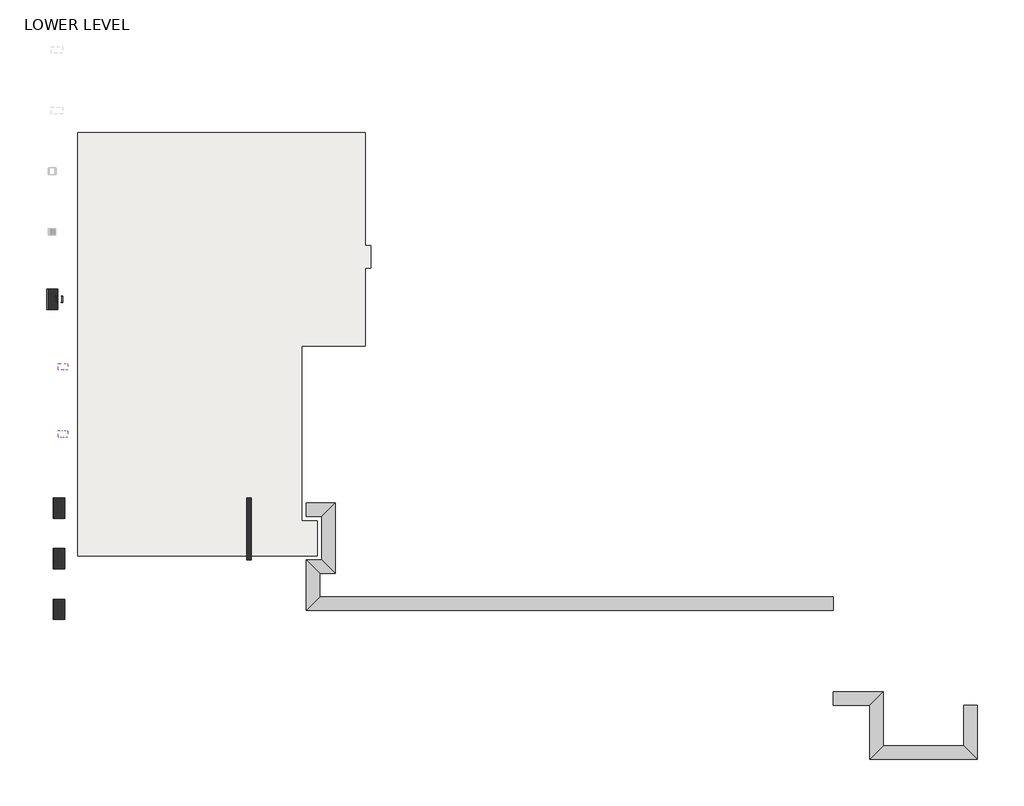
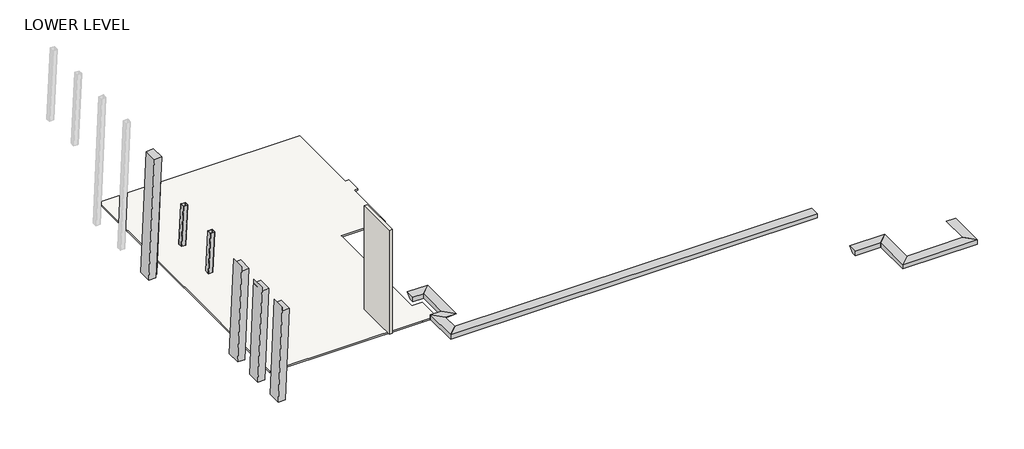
# One storey, part 1 of 2: 9 proxies, 7 columns, 1 slab, 1 wall.
"""IFC4 building model written with IfcOpenShell, lengths in millimetres."""

import ifcopenshell
import ifcopenshell.guid

model = None  # the IFC model being written
_history = None  # IfcOwnerHistory: only IFC2X3 demands one
_inside = {}  # id of a spatial element -> (the spatial element, [elements in it])
_under = {}  # id of a project, library or spatial element -> (it, [spatial elements below it])
_declared = {}  # id of a project -> (the project, [libraries it declares])
_typed = {}  # id of a type object -> (the type object, [elements of that type])
_made_of = {}  # id of a material, layer set ... -> (it, [elements and type objects made of it])


def new_model(schema):
    """Start an empty IFC model of exactly this schema.

    Asked for "IFC4X3", IfcOpenShell would pick the latest addendum, in which some entities
    have other attributes; the version numbers below select the first issue.
    IFC2X3 requires an IfcOwnerHistory on every rooted entity: one is made here for all.
    """
    global model, _history
    if schema == "IFC4X3":
        model = ifcopenshell.file(schema_version=(4, 3, 0, 0))
    else:
        model = ifcopenshell.file(schema=schema)
    _inside.clear()
    _under.clear()
    _declared.clear()
    _typed.clear()
    _made_of.clear()
    _history = None
    if model.schema == "IFC2X3":
        org = make("IfcOrganization", Name="unknown")
        user = make(
            "IfcPersonAndOrganization",
            ThePerson=make("IfcPerson", FamilyName="unknown"),
            TheOrganization=org,
        )
        app = make(
            "IfcApplication",
            ApplicationDeveloper=org,
            Version="unknown",
            ApplicationFullName="unknown",
            ApplicationIdentifier="unknown",
        )
        _history = make(
            "IfcOwnerHistory",
            OwningUser=user,
            OwningApplication=app,
            ChangeAction="ADDED",
            CreationDate=0,
        )
    return model


def make(cls, **values):
    """One entity of the class cls with the attributes given. An attribute that is None is left unset."""
    return model.create_entity(
        cls, **{name: value for name, value in values.items() if value is not None}
    )


def rooted(cls, **values):
    """An entity with a GlobalId (a new one), such as an element, a storey or a relation."""
    return make(cls, GlobalId=ifcopenshell.guid.new(), OwnerHistory=_history, **values)


def si_unit(unit_type, name, prefix=None):
    """IfcSIUnit, for example si_unit("LENGTHUNIT", "METRE", prefix="MILLI")."""
    return make("IfcSIUnit", UnitType=unit_type, Prefix=prefix, Name=name)


def assignment(units):
    """IfcUnitAssignment: the units of a project."""
    return None if units is None else make("IfcUnitAssignment", Units=units)


def point(xyz):
    """IfcCartesianPoint."""
    return None if xyz is None else make("IfcCartesianPoint", Coordinates=xyz)


def direction(xyz):
    """IfcDirection."""
    return None if xyz is None else make("IfcDirection", DirectionRatios=xyz)


def frame(location, z_axis=None, x_axis=None):
    """IfcAxis2Placement3D, a coordinate frame: its origin and axes. An axis left out is left unset."""
    return make(
        "IfcAxis2Placement3D",
        Location=point(location),
        Axis=direction(z_axis),
        RefDirection=direction(x_axis),
    )


def origin():
    """The frame at (0, 0, 0) with its axes left unset."""
    return frame((0.0, 0.0, 0.0))


def place(relative_to, where):
    """IfcLocalPlacement: puts the frame where relative to a parent placement (None: the world)."""
    return make(
        "IfcLocalPlacement", PlacementRelTo=relative_to, RelativePlacement=where
    )


def context(
    kind, dimensions, precision=None, world=None, true_north=None, identifier=None
):
    """IfcGeometricRepresentationContext, for example the 3D "Model" context."""
    return make(
        "IfcGeometricRepresentationContext",
        ContextIdentifier=identifier,
        ContextType=kind,
        CoordinateSpaceDimension=dimensions,
        Precision=precision,
        WorldCoordinateSystem=world,
        TrueNorth=true_north,
    )


def project(units=None, contexts=None):
    """IfcProject with its units and contexts."""
    return rooted(
        "IfcProject",
        Name="project",
        RepresentationContexts=contexts,
        UnitsInContext=assignment(units),
    )


def spatial(cls, under=None, at=None, **own):
    """A site, building, storey or space (cls), placed at a placement, below another one or the project."""
    s = rooted(cls, ObjectPlacement=at, **own)
    if under is not None:
        _under.setdefault(under.id(), (under, []))[1].append(s)
    return s


def polyline(points):
    """IfcPolyline through the points."""
    return make("IfcPolyline", Points=[point(p) for p in points])


def circle_curve(where, radius):
    """IfcCircle in the frame where."""
    return make("IfcCircle", Position=where, Radius=radius)


def ellipse_curve(where, semi_axis1, semi_axis2):
    """IfcEllipse in the frame where."""
    return make(
        "IfcEllipse", Position=where, SemiAxis1=semi_axis1, SemiAxis2=semi_axis2
    )


def outline(outer, holes=None, kind="AREA"):
    """IfcArbitraryClosedProfileDef: a profile drawn as a closed curve; with holes, ...WithVoids."""
    if holes is None:
        return make("IfcArbitraryClosedProfileDef", ProfileType=kind, OuterCurve=outer)
    return make(
        "IfcArbitraryProfileDefWithVoids",
        ProfileType=kind,
        OuterCurve=outer,
        InnerCurves=holes,
    )


def extrude(swept, where, along, depth):
    """IfcExtrudedAreaSolid: the profile swept, set in the frame where, extruded along a direction by depth."""
    return make(
        "IfcExtrudedAreaSolid",
        SweptArea=swept,
        Position=where,
        ExtrudedDirection=direction(along),
        Depth=depth,
    )


def faces_of(points, faces, orient=None, outer=None):
    """IfcFace entities. A face is a list of loops; a loop is a list of indices into points, from 0.

    orient and outer hold one flag for each loop. By default every Orientation is true, the
    first loop of a face is its IfcFaceOuterBound and the others are IfcFaceBound.
    """
    made = []
    for i, loops in enumerate(faces):
        bounds = []
        for j, loop in enumerate(loops):
            is_outer = j == 0 if outer is None else outer[i][j]
            bounds.append(
                make(
                    "IfcFaceOuterBound" if is_outer else "IfcFaceBound",
                    Bound=make("IfcPolyLoop", Polygon=[points[k] for k in loop]),
                    Orientation=True if orient is None else orient[i][j],
                )
            )
        made.append(make("IfcFace", Bounds=bounds))
    return made


def faceted_brep(points, faces, orient=None, outer=None, voids=None):
    """IfcFacetedBrep: a solid bounded by flat faces; with voids (closed shells), ...WithVoids."""
    shared = [point(p) for p in points]
    hull = make("IfcClosedShell", CfsFaces=faces_of(shared, faces, orient, outer))
    if voids is None:
        return make("IfcFacetedBrep", Outer=hull)
    return make(
        "IfcFacetedBrepWithVoids",
        Outer=hull,
        Voids=[
            make(cls, CfsFaces=faces_of(shared, fs, o, b)) for cls, fs, o, b in voids
        ],
    )


def shape(context_of_items, identifier, shape_type, items):
    """IfcShapeRepresentation: the items that make up one representation, for example the "Body"."""
    return make(
        "IfcShapeRepresentation",
        ContextOfItems=context_of_items,
        RepresentationIdentifier=identifier,
        RepresentationType=shape_type,
        Items=items,
    )


def made_of(thing, what):
    """Note that an element or type object is made of a material, layer set ...; save() writes the relation."""
    if what is not None:
        _made_of.setdefault(what.id(), (what, []))[1].append(thing)
    return thing


def element(
    cls,
    number,
    at=None,
    inside=None,
    cuts=None,
    type_object=None,
    material=None,
    context=None,
    identifier="Body",
    shape_type=None,
    held_by="IfcProductDefinitionShape",
    body=None,
    shapes=None,
    **own,
):
    """One element of the class cls, such as IfcWall. Its Tag is "e" and its number.

    at: its placement. inside: the storey or other place that contains it. cuts: it is an
    opening in that element (IfcRelVoidsElement). A single representation is given by context,
    identifier, shape_type and body (its items); several are given by shapes. held_by: the class
    of the entity that holds the representations. save() writes the other relations.
    """
    e = rooted(cls, Tag="e%d" % number, ObjectPlacement=at, **own)
    if body is not None:
        shapes = [shape(context, identifier, shape_type, body)]
    if shapes is not None:
        e.Representation = make(held_by, Representations=shapes)
    if inside is not None:
        _inside.setdefault(inside.id(), (inside, []))[1].append(e)
    if cuts is not None:
        rooted(
            "IfcRelVoidsElement", RelatingBuildingElement=cuts, RelatedOpeningElement=e
        )
    if type_object is not None:
        _typed.setdefault(type_object.id(), (type_object, []))[1].append(e)
    return made_of(e, material)


def aggregate(whole, parts):
    """IfcRelAggregates: a whole, such as a stair, and the parts it consists of."""
    return rooted("IfcRelAggregates", RelatingObject=whole, RelatedObjects=parts)


def save(model, path):
    """Write the relations noted so far, then the file.

    IfcRelAggregates (storeys below a building ...), IfcRelContainedInSpatialStructure (elements
    in a storey), IfcRelDefinesByType, IfcRelAssociatesMaterial and IfcRelDeclares: one each for
    every whole, place, type object, material and project.
    """
    for whole, parts in _under.values():
        aggregate(whole, parts)
    for where, things in _inside.values():
        rooted(
            "IfcRelContainedInSpatialStructure",
            RelatedElements=things,
            RelatingStructure=where,
        )
    for kind, things in _typed.values():
        rooted("IfcRelDefinesByType", RelatedObjects=things, RelatingType=kind)
    for what, things in _made_of.values():
        rooted("IfcRelAssociatesMaterial", RelatedObjects=things, RelatingMaterial=what)
    for by, libraries in _declared.values():
        rooted("IfcRelDeclares", RelatingContext=by, RelatedDefinitions=libraries)
    model.write(path)


def plane_surface(at):
    """IfcPlane: the flat surface through the origin of the frame at, square to its z axis."""
    return make("IfcPlane", Position=at)


def cylinder_surface(at, radius):
    """IfcCylindricalSurface: all points at the distance radius from the z axis of the frame at."""
    return make("IfcCylindricalSurface", Position=at, Radius=radius)


def revolved_surface(curve, axis_point, axis_direction):
    """IfcSurfaceOfRevolution: the curve turned about the line through axis_point along axis_direction."""
    return make(
        "IfcSurfaceOfRevolution",
        SweptCurve=make("IfcArbitraryOpenProfileDef", ProfileType="CURVE", Curve=curve),
        AxisPosition=make("IfcAxis1Placement", Location=point(axis_point), Axis=direction(axis_direction)),
    )


def advanced_brep(points, edges, surfaces, faces):
    """IfcAdvancedBrep: a solid bounded by faces that lie on surfaces and meet in shared edges.

    An edge is (start, end): straight between two places in points (the first is 0);
    or (start, end, curve); or (start, end, curve, False) where it runs against its curve.
    A face is (place in surfaces, loops), or (place, loops, False) where it looks against
    its surface's normal. A loop lists edges by number (the first is 1), with a minus sign
    where the edge is run from its end to its start. The first loop is the outer one.
    """
    corners = [point(p) for p in points]
    vertices = [make("IfcVertexPoint", VertexGeometry=c) for c in corners]
    made = []
    for start, end, *more in edges:
        made.append(
            make(
                "IfcEdgeCurve",
                EdgeStart=vertices[start],
                EdgeEnd=vertices[end],
                EdgeGeometry=more[0] if more else make("IfcPolyline", Points=[corners[start], corners[end]]),
                SameSense=more[1] if len(more) > 1 else True,
            )
        )
    hull = []
    for where, loops, *sense in faces:
        bounds = []
        for j, loop in enumerate(loops):
            ring = [make("IfcOrientedEdge", EdgeElement=made[abs(k) - 1], Orientation=k > 0) for k in loop]
            bounds.append(
                make(
                    "IfcFaceOuterBound" if j == 0 else "IfcFaceBound",
                    Bound=make("IfcEdgeLoop", EdgeList=ring),
                    Orientation=True,
                )
            )
        hull.append(make("IfcAdvancedFace", Bounds=bounds, FaceSurface=surfaces[where], SameSense=sense[0] if sense else True))
    return make("IfcAdvancedBrep", Outer=make("IfcClosedShell", CfsFaces=hull))


model = new_model("IFC4")

# Units and contexts
model_context = context("Model", 3, world=origin())
ifc_project = project(units=[si_unit("LENGTHUNIT", "METRE", prefix="MILLI")], contexts=[model_context])

# Site, building, storey
site = spatial("IfcSite", under=ifc_project)
building = spatial("IfcBuilding", under=site)
storey = spatial("IfcBuildingStorey", under=building, Name="LOWER LEVEL", Elevation=29972.0)

# Proxies
placement = place(None, origin())
element("IfcBuildingElementProxy", 1, Name="Thickened 24\" x 12\"", ObjectType="Thickened 24\" x 12\"", at=placement, inside=storey, context=model_context, shape_type="Brep", body=[
    faceted_brep([(-10225.7204607, -7095.1304995, 30048.2), (-10225.7204607, -7095.1304995, 30353.0), (-9616.1204607, -6485.5304995, 30353.0), (-9920.9204607, -6790.3304995, 30048.2), (13583.6045393, -7095.1304995, 30048.2), (13583.6045393, -6790.3304995, 30048.2), (13583.6045393, -6485.5304995, 30353.0), (13583.6045393, -7095.1304995, 30353.0)], [[[0, 1, 2, 3]], [[4, 5, 6, 7]], [[1, 0, 4, 7]], [[2, 1, 7, 6]], [[3, 2, 6, 5]], [[0, 3, 5, 4]]]),
])
element("IfcBuildingElementProxy", 2, Name="Thickened 24\" x 12\"", ObjectType="Thickened 24\" x 12\"", at=placement, inside=storey, context=model_context, shape_type="Brep", body=[
    faceted_brep([(-10225.7204607, -4821.8304995, 30048.2), (-10225.7204607, -4821.8304995, 30353.0), (-9616.1204607, -5431.4304995, 30353.0), (-9920.9204607, -5126.6304995, 30048.2), (-10225.7204607, -7095.1304995, 30048.2), (-9920.9204607, -6790.3304995, 30048.2), (-9616.1204607, -6485.5304995, 30353.0), (-10225.7204607, -7095.1304995, 30353.0)], [[[0, 1, 2, 3]], [[4, 5, 6, 7]], [[1, 0, 4, 7]], [[2, 1, 7, 6]], [[3, 2, 6, 5]], [[0, 3, 5, 4]]]),
])
element("IfcBuildingElementProxy", 3, Name="Thickened 24\" x 12\"", ObjectType="Thickened 24\" x 12\"", at=placement, inside=storey, context=model_context, shape_type="Brep", body=[
    faceted_brep([(13583.6045393, -11381.3804995, 30048.2), (13583.6045393, -11381.3804995, 30353.0), (13583.6045393, -10771.7804995, 30353.0), (13583.6045393, -11076.5804995, 30048.2), (15240.9545393, -11381.3804995, 30048.2), (15545.7545393, -11076.5804995, 30048.2), (15850.5545393, -10771.7804995, 30353.0), (15240.9545393, -11381.3804995, 30353.0)], [[[0, 1, 2, 3]], [[4, 5, 6, 7]], [[1, 0, 4, 7]], [[2, 1, 7, 6]], [[3, 2, 6, 5]], [[0, 3, 5, 4]]]),
])
element("IfcBuildingElementProxy", 4, Name="Thickened 24\" x 12\"", ObjectType="Thickened 24\" x 12\"", at=placement, inside=storey, context=model_context, shape_type="Brep", body=[
    faceted_brep([(-10225.7204607, -2837.4554995, 30048.2), (-10225.7204607, -2837.4554995, 30353.0), (-10225.7204607, -2227.8554995, 30353.0), (-10225.7204607, -2532.6554995, 30048.2), (-9524.0454607, -2837.4554995, 30048.2), (-9219.2454607, -2532.6554995, 30048.2), (-8914.4454607, -2227.8554995, 30353.0), (-9524.0454607, -2837.4554995, 30353.0)], [[[0, 1, 2, 3]], [[4, 5, 6, 7]], [[1, 0, 4, 7]], [[2, 1, 7, 6]], [[3, 2, 6, 5]], [[0, 3, 5, 4]]]),
])
element("IfcBuildingElementProxy", 5, Name="Thickened 24\" x 12\"", ObjectType="Thickened 24\" x 12\"", at=placement, inside=storey, context=model_context, shape_type="Brep", body=[
    faceted_brep([(-9524.0454607, -2837.4554995, 30048.2), (-9524.0454607, -2837.4554995, 30353.0), (-8914.4454607, -2227.8554995, 30353.0), (-9219.2454607, -2532.6554995, 30048.2), (-9524.0454607, -4821.8304995, 30048.2), (-9219.2454607, -5126.6304995, 30048.2), (-8914.4454607, -5431.4304995, 30353.0), (-9524.0454607, -4821.8304995, 30353.0)], [[[0, 1, 2, 3]], [[4, 5, 6, 7]], [[1, 0, 4, 7]], [[2, 1, 7, 6]], [[3, 2, 6, 5]], [[0, 3, 5, 4]]]),
])
element("IfcBuildingElementProxy", 6, Name="Thickened 24\" x 12\"", ObjectType="Thickened 24\" x 12\"", at=placement, inside=storey, context=model_context, shape_type="Brep", body=[
    faceted_brep([(-9524.0454607, -4821.8304995, 30048.2), (-9524.0454607, -4821.8304995, 30353.0), (-8914.4454607, -5431.4304995, 30353.0), (-9219.2454607, -5126.6304995, 30048.2), (-10225.7204607, -4821.8304995, 30048.2), (-9920.9204607, -5126.6304995, 30048.2), (-9616.1204607, -5431.4304995, 30353.0), (-10225.7204607, -4821.8304995, 30353.0)], [[[0, 1, 2, 3]], [[4, 5, 6, 7]], [[1, 0, 4, 7]], [[2, 1, 7, 6]], [[3, 2, 6, 5]], [[0, 3, 5, 4]]]),
])
element("IfcBuildingElementProxy", 7, Name="Thickened 24\" x 12\"", ObjectType="Thickened 24\" x 12\"", at=placement, inside=storey, context=model_context, shape_type="Brep", body=[
    faceted_brep([(15240.9545393, -11381.3804995, 30048.2), (15240.9545393, -11381.3804995, 30353.0), (15850.5545393, -10771.7804995, 30353.0), (15545.7545393, -11076.5804995, 30048.2), (15240.9545393, -13826.1304995, 30048.2), (15545.7545393, -13521.3304995, 30048.2), (15850.5545393, -13216.5304995, 30353.0), (15240.9545393, -13826.1304995, 30353.0)], [[[0, 1, 2, 3]], [[4, 5, 6, 7]], [[1, 0, 4, 7]], [[2, 1, 7, 6]], [[3, 2, 6, 5]], [[0, 3, 5, 4]]]),
])
element("IfcBuildingElementProxy", 8, Name="Thickened 24\" x 12\"", ObjectType="Thickened 24\" x 12\"", at=placement, inside=storey, context=model_context, shape_type="Brep", body=[
    faceted_brep([(15240.9545393, -13826.1304995, 30048.2), (15240.9545393, -13826.1304995, 30353.0), (15850.5545393, -13216.5304995, 30353.0), (15545.7545393, -13521.3304995, 30048.2), (20105.0545393, -13826.1304995, 30048.2), (19800.2545393, -13521.3304995, 30048.2), (19495.4545393, -13216.5304995, 30353.0), (20105.0545393, -13826.1304995, 30353.0)], [[[0, 1, 2, 3]], [[4, 5, 6, 7]], [[1, 0, 4, 7]], [[2, 1, 7, 6]], [[3, 2, 6, 5]], [[0, 3, 5, 4]]]),
])
element("IfcBuildingElementProxy", 9, Name="Thickened 24\" x 12\"", ObjectType="Thickened 24\" x 12\"", at=placement, inside=storey, context=model_context, shape_type="Brep", body=[
    faceted_brep([(20105.0545393, -13826.1304995, 30048.2), (20105.0545393, -13826.1304995, 30353.0), (19495.4545393, -13216.5304995, 30353.0), (19800.2545393, -13521.3304995, 30048.2), (20105.0545393, -11381.3804995, 30048.2), (19800.2545393, -11381.3804995, 30048.2), (19495.4545393, -11381.3804995, 30353.0), (20105.0545393, -11381.3804995, 30353.0)], [[[0, 1, 2, 3]], [[4, 5, 6, 7]], [[1, 0, 4, 7]], [[2, 1, 7, 6]], [[3, 2, 6, 5]], [[0, 3, 5, 4]]]),
])

# Columns
element("IfcColumn", 10, ObjectType="Concrete-Rectangular-Column : A_str", at=placement, inside=storey, context=model_context, shape_type="SweptSolid", body=[
    extrude(outline(polyline([(38153.5165689, -21149.7498015), (38102.0297181, -21610.0591887), (29972.0, -21968.2744496), (29972.0, -21510.233612), (38153.5165689, -21149.7498015)])), frame((0.0, 6519.2695005, 0.0), z_axis=(0.0, 1.0, 0.0), x_axis=(0.0, 0.0, 1.0)), (0.0, 0.0, 1.0), 914.4),
])
element("IfcColumn", 11, ObjectType="Concrete-Rectangular-Column : A_str", at=placement, inside=storey, context=model_context, shape_type="SweptSolid", body=[
    extrude(outline(polyline([(29973.8530358, -21660.8606217), (29973.8530358, -21202.8638747), (36170.6135377, -20943.7483082), (36120.4712951, -21392.0570572), (36402.3024462, -21392.0570572), (29973.8530358, -21660.8606217)])), frame((0.0, -7501.5304995, 0.0), z_axis=(0.0, 1.0, 0.0), x_axis=(0.0, 0.0, 1.0)), (0.0, 0.0, 1.0), 914.4),
])
element("IfcColumn", 12, ObjectType="Concrete-Rectangular-Column : A_str", at=placement, inside=storey, context=model_context, shape_type="SweptSolid", body=[
    extrude(outline(polyline([(29973.8530358, -21660.8606217), (29973.8530358, -21202.8638747), (36170.6135377, -20943.7483082), (36120.4712951, -21392.0570572), (36402.3024462, -21392.0570572), (29973.8530358, -21660.8606217)])), frame((0.0, -2929.5304995, 0.0), z_axis=(0.0, 1.0, 0.0), x_axis=(0.0, 0.0, 1.0)), (0.0, 0.0, 1.0), 914.4),
])
element("IfcColumn", 13, ObjectType="Concrete-Rectangular-Column : A_str", at=placement, inside=storey, context=model_context, shape_type="SweptSolid", body=[
    extrude(outline(polyline([(29973.8530358, -21660.8606217), (29973.8530358, -21202.8638747), (36170.6135377, -20943.7483082), (36120.4712951, -21392.0570572), (36402.3024462, -21392.0570572), (29973.8530358, -21660.8606217)])), frame((0.0, -5215.5304995, 0.0), z_axis=(0.0, 1.0, 0.0), x_axis=(0.0, 0.0, 1.0)), (0.0, 0.0, 1.0), 914.4),
])
element("IfcColumn", 14, ObjectType="HSS-Hollow Structural Section-Column : HSS12X12X1/2", at=placement, inside=storey, context=model_context, shape_type="AdvancedBrep", body=[
    advanced_brep(
    [(-21315.8891626, 7105.2475005, 36435.6858997), (-21315.8891626, 6847.6915005, 36435.6858997), (-21292.1362735, 6824.0695005, 36438.342617), (-21033.15316, 6824.0695005, 36467.3094054), (-21009.4002709, 6847.6915005, 36469.9661227), (-21009.4002709, 7105.2475005, 36469.9661227), (-21033.15316, 7128.8695005, 36467.3094054), (-21292.1362735, 7128.8695005, 36438.342617), (-21292.1362735, 6835.8805005, 36438.342617), (-21304.012718, 6847.6915005, 36437.0142583), (-21304.012718, 7105.2475005, 36437.0142583), (-21292.1362735, 7117.0585005, 36438.342617), (-21033.15316, 7117.0585005, 36467.3094054), (-21021.2767155, 7105.2475005, 36468.637764), (-21021.2767155, 6847.6915005, 36468.637764), (-21033.15316, 6835.8805005, 36467.3094054), (-21584.4793713, 7105.2475005, 29976.5811676), (-21584.4793713, 6847.6915005, 29976.5811676), (-21560.877768, 6835.8805005, 29975.5997375), (-21572.6785697, 6847.6915005, 29976.0904526), (-21303.5441577, 6835.8805005, 29964.8989839), (-21291.743356, 6847.6915005, 29964.4082689), (-21291.743356, 7105.2475005, 29964.4082689), (-21303.5441577, 7117.0585005, 29964.8989839), (-21560.877768, 7117.0585005, 29975.5997375), (-21572.6785697, 7105.2475005, 29976.0904526), (-21560.877768, 7128.8695005, 29975.5997375), (-21303.5441577, 7128.8695005, 29964.8989839), (-21279.9425544, 7105.2475005, 29963.9175539), (-21279.9425544, 6847.6915005, 29963.9175539), (-21303.5441577, 6824.0695005, 29964.8989839), (-21560.877768, 6824.0695005, 29975.5997375)],
    [
        (0, 1),
        (1, 2, ellipse_curve(frame((-21292.1362735, 6847.6915005, 36438.342617), z_axis=(-0.11115505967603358, 0.0, 0.9938030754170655), x_axis=(0.9938030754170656, 0.0, 0.11115505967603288)), 23.9010018, 23.622)),
        (2, 3),
        (3, 4, ellipse_curve(frame((-21033.15316, 6847.6915005, 36467.3094054), z_axis=(-0.11115505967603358, 0.0, 0.9938030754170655), x_axis=(0.9938030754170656, 0.0, 0.11115505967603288)), 23.9010018, 23.622)),
        (4, 5),
        (5, 6, ellipse_curve(frame((-21033.15316, 7105.2475005, 36467.3094054), z_axis=(-0.11115505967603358, 0.0, 0.9938030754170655), x_axis=(0.9938030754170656, 0.0, 0.11115505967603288)), 23.9010018, 23.622)),
        (6, 7),
        (7, 0, ellipse_curve(frame((-21292.1362735, 7105.2475005, 36438.342617), z_axis=(-0.11115505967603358, 0.0, 0.9938030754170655), x_axis=(0.9938030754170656, 0.0, 0.11115505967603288)), 23.9010018, 23.622)),
        (8, 9, ellipse_curve(frame((-21292.1362735, 6847.6915005, 36438.342617), z_axis=(0.11115505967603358, 0.0, -0.9938030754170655), x_axis=(-0.9938030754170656, 0.0, -0.11115505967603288)), 11.9505009, 11.811)),
        (9, 10),
        (10, 11, ellipse_curve(frame((-21292.1362735, 7105.2475005, 36438.342617), z_axis=(0.11115505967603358, 0.0, -0.9938030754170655), x_axis=(-0.9938030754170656, 0.0, -0.11115505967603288)), 11.9505009, 11.811)),
        (11, 12),
        (12, 13, ellipse_curve(frame((-21033.15316, 7105.2475005, 36467.3094054), z_axis=(0.11115505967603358, 0.0, -0.9938030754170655), x_axis=(-0.9938030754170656, 0.0, -0.11115505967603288)), 11.9505009, 11.811)),
        (13, 14),
        (14, 15, ellipse_curve(frame((-21033.15316, 6847.6915005, 36467.3094054), z_axis=(0.11115505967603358, 0.0, -0.9938030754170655), x_axis=(-0.9938030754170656, 0.0, -0.11115505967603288)), 11.9505009, 11.811)),
        (15, 8),
        (0, 16),
        (16, 17),
        (17, 1),
        (8, 18),
        (18, 19, circle_curve(frame((-21560.877768, 6847.6915005, 29975.5997375), z_axis=(-0.041547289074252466, 0.0, -0.9991365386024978), x_axis=(0.0, 1.0, 0.0)), 11.811)),
        (19, 9),
        (15, 20),
        (20, 18),
        (14, 21),
        (21, 20, circle_curve(frame((-21303.5441577, 6847.6915005, 29964.8989839), z_axis=(-0.041547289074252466, 0.0, -0.9991365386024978), x_axis=(0.0, 1.0, 0.0)), 11.811)),
        (13, 22),
        (22, 21),
        (12, 23),
        (23, 22, circle_curve(frame((-21303.5441577, 7105.2475005, 29964.8989839), z_axis=(-0.041547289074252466, 0.0, -0.9991365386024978), x_axis=(0.0, 1.0, 0.0)), 11.811)),
        (11, 24),
        (24, 23),
        (10, 25),
        (25, 24, circle_curve(frame((-21560.877768, 7105.2475005, 29975.5997375), z_axis=(-0.041547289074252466, 0.0, -0.9991365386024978), x_axis=(0.0, 1.0, 0.0)), 11.811)),
        (7, 26),
        (26, 16, circle_curve(frame((-21560.877768, 7105.2475005, 29975.5997375), z_axis=(0.041547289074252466, 0.0, 0.9991365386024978), x_axis=(0.0, 1.0, 0.0)), 23.622)),
        (26, 27),
        (27, 28, circle_curve(frame((-21303.5441577, 7105.2475005, 29964.8989839), z_axis=(-0.041547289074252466, 0.0, -0.9991365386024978), x_axis=(0.0, 1.0, 0.0)), 23.622)),
        (28, 29),
        (29, 30, circle_curve(frame((-21303.5441577, 6847.6915005, 29964.8989839), z_axis=(-0.041547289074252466, 0.0, -0.9991365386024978), x_axis=(0.0, 1.0, 0.0)), 23.622)),
        (30, 31),
        (31, 17, circle_curve(frame((-21560.877768, 6847.6915005, 29975.5997375), z_axis=(-0.041547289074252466, 0.0, -0.9991365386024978), x_axis=(0.0, 1.0, 0.0)), 23.622)),
        (25, 19),
        (31, 2),
        (6, 27),
        (5, 28),
        (4, 29),
        (3, 30),
    ],
    [
        plane_surface(frame((-11485.0467002, -8086.4745246, 37535.2476817), z_axis=(-0.11115505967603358, 0.0, 0.9938030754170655), x_axis=(0.9938030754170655, 0.0, 0.11115505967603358))),
        plane_surface(frame((-21296.7925453, 7105.2475005, 36894.9247206), z_axis=(-0.9991365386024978, 0.0, 0.041547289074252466), x_axis=(-0.041547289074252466, 0.0, -0.9991365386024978))),
        revolved_surface(polyline([(-21560.877768, 6859.5025005, 29975.5997375), (-21292.060630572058, 6859.5025005, 36440.16169067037)]), (-21560.877768, 6847.6915005, 29975.5997375), (-0.041547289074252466, 0.0, -0.9991365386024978)),
        plane_surface(frame((-21015.8573317, 6835.8805005, 36883.242537), z_axis=(0.0, 1.0000000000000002, 0.0), x_axis=(-0.041547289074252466, 0.0, -0.9991365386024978))),
        revolved_surface(polyline([(-21303.5441577, 6859.5025005, 29964.8989839), (-21033.07751715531, 6859.5025005, 36469.128479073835)]), (-21303.5441577, 6847.6915005, 29964.8989839), (-0.041547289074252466, 0.0, -0.9991365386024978)),
        plane_surface(frame((-21004.05653, 7105.2475005, 36882.7518219), z_axis=(-0.9991365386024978, 0.0, 0.041547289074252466), x_axis=(-0.041547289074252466, 0.0, -0.9991365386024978))),
        revolved_surface(polyline([(-21303.5441577, 7117.058500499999, 29964.8989839), (-21033.07751715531, 7117.058500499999, 36469.128479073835)]), (-21303.5441577, 7105.2475005, 29964.8989839), (-0.041547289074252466, 0.0, -0.9991365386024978)),
        plane_surface(frame((-21273.190942, 7117.0585005, 36893.9432905), z_axis=(0.0, -1.0000000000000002, 0.0), x_axis=(-0.041547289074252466, 0.0, -0.9991365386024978))),
        revolved_surface(polyline([(-21560.877768, 7117.058500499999, 29975.5997375), (-21292.060630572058, 7117.058500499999, 36440.16169067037)]), (-21560.877768, 7105.2475005, 29975.5997375), (-0.041547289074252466, 0.0, -0.9991365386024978)),
        cylinder_surface(frame((-21560.877768, 7105.2475005, 29975.5997375), z_axis=(0.041547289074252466, 0.0, 0.9991365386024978), x_axis=(0.0, 1.0, 0.0)), 23.622),
        plane_surface(frame((-21584.4793713, 6847.6915005, 29976.5811676), z_axis=(-0.04154728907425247, 0.0, -0.9991365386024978), x_axis=(0.0, 1.0, 0.0))),
        cylinder_surface(frame((-21560.877768, 6847.6915005, 29975.5997375), z_axis=(0.041547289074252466, 0.0, 0.9991365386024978), x_axis=(0.0, 1.0, 0.0)), 23.622),
        plane_surface(frame((-21284.9917437, 6847.6915005, 36894.4340056), z_axis=(0.9991365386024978, 0.0, -0.041547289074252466), x_axis=(-0.041547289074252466, 0.0, -0.9991365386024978))),
        plane_surface(frame((-21015.8573317, 7128.8695005, 36883.242537), z_axis=(0.0, 1.0000000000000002, 0.0), x_axis=(-0.041547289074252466, 0.0, -0.9991365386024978))),
        cylinder_surface(frame((-21303.5441577, 7105.2475005, 29964.8989839), z_axis=(0.041547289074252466, 0.0, 0.9991365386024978), x_axis=(0.0, 1.0, 0.0)), 23.622),
        plane_surface(frame((-20992.2557284, 6847.6915005, 36882.2611069), z_axis=(0.9991365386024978, 0.0, -0.041547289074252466), x_axis=(-0.041547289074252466, 0.0, -0.9991365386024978))),
        cylinder_surface(frame((-21303.5441577, 6847.6915005, 29964.8989839), z_axis=(0.041547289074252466, 0.0, 0.9991365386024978), x_axis=(0.0, 1.0, 0.0)), 23.622),
        plane_surface(frame((-21273.190942, 6824.0695005, 36893.9432905), z_axis=(0.0, -1.0000000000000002, 0.0), x_axis=(-0.041547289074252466, 0.0, -0.9991365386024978))),
    ],
    [
        (0, [[1, 2, 3, 4, 5, 6, 7, 8], [9, 10, 11, 12, 13, 14, 15, 16]]),
        (1, [[17, 18, 19, -1]]),
        (2, [[20, 21, 22, -9]]),
        (3, [[23, 24, -20, -16]]),
        (4, [[25, 26, -23, -15]]),
        (5, [[27, 28, -25, -14]]),
        (6, [[29, 30, -27, -13]]),
        (7, [[31, 32, -29, -12]]),
        (8, [[33, 34, -31, -11]]),
        (9, [[35, 36, -17, -8]]),
        (10, [[-36, 37, 38, 39, 40, 41, 42, -18], [43, -21, -24, -26, -28, -30, -32, -34]]),
        (11, [[-19, -42, 44, -2]]),
        (12, [[-22, -43, -33, -10]]),
        (13, [[45, -37, -35, -7]]),
        (14, [[46, -38, -45, -6]]),
        (15, [[47, -39, -46, -5]]),
        (16, [[48, -40, -47, -4]]),
        (17, [[-44, -41, -48, -3]]),
    ],
),
])
element("IfcColumn", 15, ObjectType="HSS-Hollow Structural Section-Column : HSS12X12X1/2", at=placement, inside=storey, context=model_context, shape_type="AdvancedBrep", body=[
    advanced_brep(
    [(-21448.8559083, 3799.6915005, 33761.4284423), (-21450.2129909, 4057.2475005, 33734.1869423), (-21426.6861638, 4080.8695005, 33731.6884615), (-21168.8107725, 4080.8695005, 33731.6884615), (-21145.0350131, 4057.2475005, 33734.1869423), (-21143.6779305, 3799.6915005, 33761.4284423), (-21167.2047576, 3776.0695005, 33763.9269231), (-21425.0801489, 3776.0695005, 33763.9269231), (-21437.0302617, 3799.6915005, 33761.4284423), (-21425.1423819, 3787.8805005, 33762.6776827), (-21167.2669907, 3787.8805005, 33762.6776827), (-21155.5035771, 3799.6915005, 33761.4284423), (-21156.8606597, 4057.2475005, 33734.1869423), (-21168.7485395, 4069.0585005, 33732.9377019), (-21426.6239307, 4069.0585005, 33732.9377019), (-21438.3873443, 4057.2475005, 33734.1869423), (-21314.3989774, 4057.2475005, 36460.4597914), (-21314.3989774, 3799.6915005, 36460.4597914), (-21290.8062344, 3776.0695005, 36459.284478), (-21033.5692301, 3776.0695005, 36446.4697701), (-21009.9764871, 3799.6915005, 36445.2944567), (-21009.9764871, 4057.2475005, 36445.2944567), (-21033.5692301, 4080.8695005, 36446.4697701), (-21290.8062344, 4080.8695005, 36459.284478), (-21302.6026059, 4057.2475005, 36459.8721347), (-21290.8062344, 4069.0585005, 36459.284478), (-21033.5692301, 4069.0585005, 36446.4697701), (-21021.7728586, 4057.2475005, 36445.8821134), (-21021.7728586, 3799.6915005, 36445.8821134), (-21033.5692301, 3787.8805005, 36446.4697701), (-21290.8062344, 3787.8805005, 36459.284478), (-21302.6026059, 3799.6915005, 36459.8721347)],
    [
        (0, 1),
        (1, 2, ellipse_curve(frame((-21426.5616976, 4057.2475005, 33734.1869423), z_axis=(0.0, -0.10518252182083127, -0.9944529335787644), x_axis=(0.42804027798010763, -0.8987464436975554, 0.09505972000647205)), 23.7832204, 23.622)),
        (2, 3),
        (3, 4, ellipse_curve(frame((-21168.6863064, 4057.2475005, 33734.1869423), z_axis=(0.0, -0.10518252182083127, -0.9944529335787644), x_axis=(0.42804027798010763, -0.8987464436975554, 0.09505972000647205)), 23.7832204, 23.622)),
        (4, 5),
        (5, 6, ellipse_curve(frame((-21167.3292238, 3799.6915005, 33761.4284423), z_axis=(0.0, -0.10518252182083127, -0.9944529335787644), x_axis=(0.42804027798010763, -0.8987464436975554, 0.09505972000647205)), 23.7832204, 23.622)),
        (6, 7),
        (7, 0, ellipse_curve(frame((-21425.204615, 3799.6915005, 33761.4284423), z_axis=(0.0, -0.10518252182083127, -0.9944529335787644), x_axis=(0.42804027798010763, -0.8987464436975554, 0.09505972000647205)), 23.7832204, 23.622)),
        (8, 9, ellipse_curve(frame((-21425.204615, 3799.6915005, 33761.4284423), z_axis=(0.0, 0.10518252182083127, 0.9944529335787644), x_axis=(-0.42804027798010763, 0.8987464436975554, -0.09505972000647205)), 11.8916102, 11.811)),
        (9, 10),
        (10, 11, ellipse_curve(frame((-21167.3292238, 3799.6915005, 33761.4284423), z_axis=(0.0, 0.10518252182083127, 0.9944529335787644), x_axis=(-0.42804027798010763, 0.8987464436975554, -0.09505972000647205)), 11.8916102, 11.811)),
        (11, 12),
        (12, 13, ellipse_curve(frame((-21168.6863064, 4057.2475005, 33734.1869423), z_axis=(0.0, 0.10518252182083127, 0.9944529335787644), x_axis=(-0.42804027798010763, 0.8987464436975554, -0.09505972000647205)), 11.8916102, 11.811)),
        (13, 14),
        (14, 15, ellipse_curve(frame((-21426.5616976, 4057.2475005, 33734.1869423), z_axis=(0.0, 0.10518252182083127, 0.9944529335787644), x_axis=(-0.42804027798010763, 0.8987464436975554, -0.09505972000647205)), 11.8916102, 11.811)),
        (15, 8),
        (16, 17),
        (17, 18, circle_curve(frame((-21290.8062344, 3799.6915005, 36459.284478), z_axis=(0.04975503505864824, 0.0, 0.9987614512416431), x_axis=(0.0, 0.9999999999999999, 0.0)), 23.622)),
        (18, 19),
        (19, 20, circle_curve(frame((-21033.5692301, 3799.6915005, 36446.4697701), z_axis=(0.04975503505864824, 0.0, 0.9987614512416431), x_axis=(0.0, 0.9999999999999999, 0.0)), 23.622)),
        (20, 21),
        (21, 22, circle_curve(frame((-21033.5692301, 4057.2475005, 36446.4697701), z_axis=(0.04975503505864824, 0.0, 0.9987614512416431), x_axis=(0.0, 0.9999999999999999, 0.0)), 23.622)),
        (22, 23),
        (23, 16, circle_curve(frame((-21290.8062344, 4057.2475005, 36459.284478), z_axis=(0.04975503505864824, 0.0, 0.9987614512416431), x_axis=(0.0, 0.9999999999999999, 0.0)), 23.622)),
        (24, 25, circle_curve(frame((-21290.8062344, 4057.2475005, 36459.284478), z_axis=(-0.04975503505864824, 0.0, -0.9987614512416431), x_axis=(0.0, 0.9999999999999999, 0.0)), 11.811)),
        (25, 26),
        (26, 27, circle_curve(frame((-21033.5692301, 4057.2475005, 36446.4697701), z_axis=(-0.04975503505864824, 0.0, -0.9987614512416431), x_axis=(0.0, 0.9999999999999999, 0.0)), 11.811)),
        (27, 28),
        (28, 29, circle_curve(frame((-21033.5692301, 3799.6915005, 36446.4697701), z_axis=(-0.04975503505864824, 0.0, -0.9987614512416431), x_axis=(0.0, 0.9999999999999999, 0.0)), 11.811)),
        (29, 30),
        (30, 31, circle_curve(frame((-21290.8062344, 3799.6915005, 36459.284478), z_axis=(-0.04975503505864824, 0.0, -0.9987614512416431), x_axis=(0.0, 0.9999999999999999, 0.0)), 11.811)),
        (31, 24),
        (24, 15),
        (14, 25),
        (13, 26),
        (12, 27),
        (11, 28),
        (10, 29),
        (9, 30),
        (8, 31),
        (16, 1),
        (0, 17),
        (23, 2),
        (7, 18),
        (6, 19),
        (5, 20),
        (4, 21),
        (3, 22),
    ],
    [
        plane_surface(frame((-22209.6315188, 6979.583644, 33425.0936964), z_axis=(0.0, -0.10518252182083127, -0.9944529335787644), x_axis=(0.0, 0.9944529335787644, -0.10518252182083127))),
        plane_surface(frame((-21314.3989774, 3799.6915005, 36460.4597914), z_axis=(0.049755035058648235, 0.0, 0.998761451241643), x_axis=(0.0, -1.0, 0.0))),
        revolved_surface(polyline([(-21426.630472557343, 4069.0585005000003, 33732.80638373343), (-21290.806234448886, 4069.0585005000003, 36459.28447800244)]), (-21448.3381122, 4057.2475005, 33297.0564411), (-0.04975503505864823, 0.0, -0.9987614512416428)),
        plane_surface(frame((-21290.8062344, 4069.0585005, 36459.284478), z_axis=(0.0, -1.0, 0.0), x_axis=(-0.049755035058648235, 0.0, -0.998761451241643))),
        revolved_surface(polyline([(-21168.755081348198, 4069.0585005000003, 33732.80638373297), (-21033.569230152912, 4069.0585005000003, 36446.46977012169)]), (-21191.1011079, 4057.2475005, 33284.2417333), (-0.04975503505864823, 0.0, -0.9987614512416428)),
        plane_surface(frame((-21021.7728586, 4057.2475005, 36445.8821134), z_axis=(-0.998761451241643, 0.0, 0.049755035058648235), x_axis=(-0.049755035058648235, 0.0, -0.998761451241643))),
        revolved_surface(polyline([(-21167.39799874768, 3811.5025005, 33760.04788373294), (-21033.569230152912, 3811.5025005, 36446.46977012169)]), (-21191.1011079, 3799.6915005, 33284.2417333), (-0.04975503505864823, 0.0, -0.9987614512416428)),
        plane_surface(frame((-21033.5692301, 3787.8805005, 36446.4697701), z_axis=(0.0, 1.0, 0.0), x_axis=(-0.049755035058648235, 0.0, -0.998761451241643))),
        revolved_surface(polyline([(-21425.273389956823, 3811.5025005, 33760.047883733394), (-21290.806234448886, 3811.5025005, 36459.28447800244)]), (-21448.3381122, 3799.6915005, 33297.0564411), (-0.04975503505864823, 0.0, -0.9987614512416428)),
        plane_surface(frame((-21314.3989774, 4057.2475005, 36460.4597914), z_axis=(-0.998761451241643, 0.0, 0.049755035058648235), x_axis=(-0.049755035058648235, 0.0, -0.998761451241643))),
        cylinder_surface(frame((-21448.3381122, 4057.2475005, 33297.0564411), z_axis=(0.04975503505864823, 0.0, 0.9987614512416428), x_axis=(0.0, 0.9999999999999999, 0.0)), 23.622),
        cylinder_surface(frame((-21448.3381122, 3799.6915005, 33297.0564411), z_axis=(0.04975503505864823, 0.0, 0.9987614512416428), x_axis=(0.0, 0.9999999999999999, 0.0)), 23.622),
        plane_surface(frame((-21302.6026059, 3799.6915005, 36459.8721347), z_axis=(0.998761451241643, 0.0, -0.049755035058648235), x_axis=(-0.049755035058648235, 0.0, -0.998761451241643))),
        plane_surface(frame((-21290.8062344, 3776.0695005, 36459.284478), z_axis=(0.0, -1.0, 0.0), x_axis=(-0.049755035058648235, 0.0, -0.998761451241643))),
        cylinder_surface(frame((-21191.1011079, 3799.6915005, 33284.2417333), z_axis=(0.04975503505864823, 0.0, 0.9987614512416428), x_axis=(0.0, 0.9999999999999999, 0.0)), 23.622),
        plane_surface(frame((-21009.9764871, 3799.6915005, 36445.2944567), z_axis=(0.998761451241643, 0.0, -0.049755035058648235), x_axis=(-0.049755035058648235, 0.0, -0.998761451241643))),
        cylinder_surface(frame((-21191.1011079, 4057.2475005, 33284.2417333), z_axis=(0.04975503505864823, 0.0, 0.9987614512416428), x_axis=(0.0, 0.9999999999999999, 0.0)), 23.622),
        plane_surface(frame((-21033.5692301, 4080.8695005, 36446.4697701), z_axis=(0.0, 1.0, 0.0), x_axis=(-0.049755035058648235, 0.0, -0.998761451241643))),
    ],
    [
        (0, [[1, 2, 3, 4, 5, 6, 7, 8], [9, 10, 11, 12, 13, 14, 15, 16]]),
        (1, [[17, 18, 19, 20, 21, 22, 23, 24], [25, 26, 27, 28, 29, 30, 31, 32]]),
        (2, [[-25, 33, -15, 34]]),
        (3, [[-26, -34, -14, 35]]),
        (4, [[-27, -35, -13, 36]]),
        (5, [[-28, -36, -12, 37]]),
        (6, [[-29, -37, -11, 38]]),
        (7, [[-30, -38, -10, 39]]),
        (8, [[-31, -39, -9, 40]]),
        (9, [[-17, 41, -1, 42]]),
        (10, [[-24, 43, -2, -41]]),
        (11, [[-18, -42, -8, 44]]),
        (12, [[-32, -40, -16, -33]]),
        (13, [[-19, -44, -7, 45]]),
        (14, [[-20, -45, -6, 46]]),
        (15, [[-21, -46, -5, 47]]),
        (16, [[-22, -47, -4, 48]]),
        (17, [[-23, -48, -3, -43]]),
    ],
),
])
element("IfcColumn", 16, ObjectType="HSS-Hollow Structural Section-Column : HSS12X12X1/2", at=placement, inside=storey, context=model_context, shape_type="AdvancedBrep", body=[
    advanced_brep(
    [(-21450.2130043, 751.6915005, 33734.1869423), (-21448.8559045, 1009.2475005, 33761.4284423), (-21425.0801427, 1032.8695005, 33763.9269231), (-21167.2047434, 1032.8695005, 33763.9269231), (-21143.6779171, 1009.2475005, 33761.4284423), (-21145.0350169, 751.6915005, 33734.1869423), (-21168.8107787, 728.0695005, 33731.6884615), (-21426.686178, 728.0695005, 33731.6884615), (-21438.3873573, 751.6915005, 33734.1869423), (-21426.6239441, 739.8805005, 33732.9377019), (-21168.7485448, 739.8805005, 33732.9377019), (-21156.8606639, 751.6915005, 33734.1869423), (-21155.5035641, 1009.2475005, 33761.4284423), (-21167.2669773, 1021.0585005, 33762.6776827), (-21425.1423766, 1021.0585005, 33762.6776827), (-21437.0302575, 1009.2475005, 33761.4284423), (-21314.3972552, 1009.2475005, 36460.4600794), (-21314.3972552, 751.6915005, 36460.4600794), (-21290.804513, 728.0695005, 36459.2847511), (-21033.5675167, 728.0695005, 36446.4698812), (-21009.9747744, 751.6915005, 36445.2945529), (-21009.9747744, 1009.2475005, 36445.2945529), (-21033.5675167, 1032.8695005, 36446.4698812), (-21290.804513, 1032.8695005, 36459.2847511), (-21302.6008841, 1009.2475005, 36459.8724152), (-21290.804513, 1021.0585005, 36459.2847511), (-21033.5675167, 1021.0585005, 36446.4698812), (-21021.7711456, 1009.2475005, 36445.8822171), (-21021.7711456, 751.6915005, 36445.8822171), (-21033.5675167, 739.8805005, 36446.4698812), (-21290.804513, 739.8805005, 36459.2847511), (-21302.6008841, 751.6915005, 36459.8724152)],
    [
        (0, 1),
        (1, 2, ellipse_curve(frame((-21425.2046105, 1009.2475005, 33761.4284423), z_axis=(0.0, 0.10518252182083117, -0.9944529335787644), x_axis=(0.4280447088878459, 0.898744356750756, 0.09505949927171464)), 23.7832211, 23.622)),
        (2, 3),
        (3, 4, ellipse_curve(frame((-21167.3292111, 1009.2475005, 33761.4284423), z_axis=(0.0, 0.10518252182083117, -0.9944529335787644), x_axis=(0.4280447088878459, 0.898744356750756, 0.09505949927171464)), 23.7832211, 23.622)),
        (4, 5),
        (5, 6, ellipse_curve(frame((-21168.6863109, 751.6915005, 33734.1869423), z_axis=(0.0, 0.10518252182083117, -0.9944529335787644), x_axis=(0.4280447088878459, 0.898744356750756, 0.09505949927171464)), 23.7832211, 23.622)),
        (6, 7),
        (7, 0, ellipse_curve(frame((-21426.5617103, 751.6915005, 33734.1869423), z_axis=(0.0, 0.10518252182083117, -0.9944529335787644), x_axis=(0.4280447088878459, 0.898744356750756, 0.09505949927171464)), 23.7832211, 23.622)),
        (8, 9, ellipse_curve(frame((-21426.5617103, 751.6915005, 33734.1869423), z_axis=(0.0, -0.10518252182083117, 0.9944529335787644), x_axis=(-0.4280447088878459, -0.898744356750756, -0.09505949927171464)), 11.8916106, 11.811)),
        (9, 10),
        (10, 11, ellipse_curve(frame((-21168.6863109, 751.6915005, 33734.1869423), z_axis=(0.0, -0.10518252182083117, 0.9944529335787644), x_axis=(-0.4280447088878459, -0.898744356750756, -0.09505949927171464)), 11.8916106, 11.811)),
        (11, 12),
        (12, 13, ellipse_curve(frame((-21167.3292111, 1009.2475005, 33761.4284423), z_axis=(0.0, -0.10518252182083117, 0.9944529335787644), x_axis=(-0.4280447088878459, -0.898744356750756, -0.09505949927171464)), 11.8916106, 11.811)),
        (13, 14),
        (14, 15, ellipse_curve(frame((-21425.2046105, 1009.2475005, 33761.4284423), z_axis=(0.0, -0.10518252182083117, 0.9944529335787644), x_axis=(-0.4280447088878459, -0.898744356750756, -0.09505949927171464)), 11.8916106, 11.811)),
        (15, 8),
        (16, 17),
        (17, 18, circle_curve(frame((-21290.804513, 751.6915005, 36459.2847511), z_axis=(0.04975566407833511, 0.0, 0.9987614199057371), x_axis=(0.0, 0.9999999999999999, 0.0)), 23.622)),
        (18, 19),
        (19, 20, circle_curve(frame((-21033.5675167, 751.6915005, 36446.4698812), z_axis=(0.04975566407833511, 0.0, 0.9987614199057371), x_axis=(0.0, 0.9999999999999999, 0.0)), 23.622)),
        (20, 21),
        (21, 22, circle_curve(frame((-21033.5675167, 1009.2475005, 36446.4698812), z_axis=(0.04975566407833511, 0.0, 0.9987614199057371), x_axis=(0.0, 0.9999999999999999, 0.0)), 23.622)),
        (22, 23),
        (23, 16, circle_curve(frame((-21290.804513, 1009.2475005, 36459.2847511), z_axis=(0.04975566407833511, 0.0, 0.9987614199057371), x_axis=(0.0, 0.9999999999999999, 0.0)), 23.622)),
        (24, 25, circle_curve(frame((-21290.804513, 1009.2475005, 36459.2847511), z_axis=(-0.04975566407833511, 0.0, -0.9987614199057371), x_axis=(0.0, 0.9999999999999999, 0.0)), 11.811)),
        (25, 26),
        (26, 27, circle_curve(frame((-21033.5675167, 1009.2475005, 36446.4698812), z_axis=(-0.04975566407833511, 0.0, -0.9987614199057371), x_axis=(0.0, 0.9999999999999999, 0.0)), 11.811)),
        (27, 28),
        (28, 29, circle_curve(frame((-21033.5675167, 751.6915005, 36446.4698812), z_axis=(-0.04975566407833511, 0.0, -0.9987614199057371), x_axis=(0.0, 0.9999999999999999, 0.0)), 11.811)),
        (29, 30),
        (30, 31, circle_curve(frame((-21290.804513, 751.6915005, 36459.2847511), z_axis=(-0.04975566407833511, 0.0, -0.9987614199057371), x_axis=(0.0, 0.9999999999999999, 0.0)), 11.811)),
        (31, 24),
        (24, 15),
        (14, 25),
        (13, 26),
        (12, 27),
        (11, 28),
        (10, 29),
        (9, 30),
        (8, 31),
        (16, 1),
        (0, 17),
        (23, 2),
        (7, 18),
        (6, 19),
        (5, 20),
        (4, 21),
        (3, 22),
    ],
    [
        plane_surface(frame((-22209.6315188, -2170.644643, 33425.0936964), z_axis=(0.0, 0.10518252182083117, -0.9944529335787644), x_axis=(0.0, -0.9944529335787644, -0.10518252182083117))),
        plane_surface(frame((-21314.3972552, 751.6915005, 36460.4600794), z_axis=(0.0497556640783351, 0.0, 0.998761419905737), x_axis=(0.0, -1.0, 0.0))),
        revolved_surface(polyline([(-21425.273386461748, 1021.0585005, 33760.04788056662), (-21290.804512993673, 1021.0585005, 36459.28475109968)]), (-21448.3384016, 1009.2475005, 33297.0564263), (-0.04975566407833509, 0.0, -0.9987614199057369)),
        plane_surface(frame((-21290.804513, 1021.0585005, 36459.2847511), z_axis=(0.0, -1.0, 0.0), x_axis=(-0.0497556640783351, 0.0, -0.998761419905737))),
        revolved_surface(polyline([(-21167.39798709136, 1021.0585005, 33760.04788056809), (-21033.56751669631, 1021.0585005, 36446.469881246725)]), (-21191.1014053, 1009.2475005, 33284.2415565), (-0.04975566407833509, 0.0, -0.9987614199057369)),
        plane_surface(frame((-21021.7711456, 1009.2475005, 36445.8822171), z_axis=(-0.998761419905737, 0.0, 0.0497556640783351), x_axis=(-0.0497556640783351, 0.0, -0.998761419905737))),
        revolved_surface(polyline([(-21168.75508689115, 763.5025005, 33732.80638056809), (-21033.56751669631, 763.5025005, 36446.469881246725)]), (-21191.1014053, 751.6915005, 33284.2415565), (-0.04975566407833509, 0.0, -0.9987614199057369)),
        plane_surface(frame((-21033.5675167, 739.8805005, 36446.4698812), z_axis=(0.0, 1.0, 0.0), x_axis=(-0.0497556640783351, 0.0, -0.998761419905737))),
        revolved_surface(polyline([(-21426.630486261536, 763.5025005, 33732.80638056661), (-21290.804512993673, 763.5025005, 36459.28475109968)]), (-21448.3384016, 751.6915005, 33297.0564263), (-0.04975566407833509, 0.0, -0.9987614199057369)),
        plane_surface(frame((-21314.3972552, 1009.2475005, 36460.4600794), z_axis=(-0.998761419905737, 0.0, 0.0497556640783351), x_axis=(-0.0497556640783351, 0.0, -0.998761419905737))),
        cylinder_surface(frame((-21448.3384016, 1009.2475005, 33297.0564263), z_axis=(0.04975566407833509, 0.0, 0.9987614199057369), x_axis=(0.0, 0.9999999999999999, 0.0)), 23.622),
        cylinder_surface(frame((-21448.3384016, 751.6915005, 33297.0564263), z_axis=(0.04975566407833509, 0.0, 0.9987614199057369), x_axis=(0.0, 0.9999999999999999, 0.0)), 23.622),
        plane_surface(frame((-21302.6008841, 751.6915005, 36459.8724152), z_axis=(0.998761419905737, 0.0, -0.0497556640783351), x_axis=(-0.0497556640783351, 0.0, -0.998761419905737))),
        plane_surface(frame((-21290.804513, 728.0695005, 36459.2847511), z_axis=(0.0, -1.0, 0.0), x_axis=(-0.0497556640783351, 0.0, -0.998761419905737))),
        cylinder_surface(frame((-21191.1014053, 751.6915005, 33284.2415565), z_axis=(0.04975566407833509, 0.0, 0.9987614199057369), x_axis=(0.0, 0.9999999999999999, 0.0)), 23.622),
        plane_surface(frame((-21009.9747744, 751.6915005, 36445.2945529), z_axis=(0.998761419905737, 0.0, -0.0497556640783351), x_axis=(-0.0497556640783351, 0.0, -0.998761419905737))),
        cylinder_surface(frame((-21191.1014053, 1009.2475005, 33284.2415565), z_axis=(0.04975566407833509, 0.0, 0.9987614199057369), x_axis=(0.0, 0.9999999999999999, 0.0)), 23.622),
        plane_surface(frame((-21033.5675167, 1032.8695005, 36446.4698812), z_axis=(0.0, 1.0, 0.0), x_axis=(-0.0497556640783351, 0.0, -0.998761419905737))),
    ],
    [
        (0, [[1, 2, 3, 4, 5, 6, 7, 8], [9, 10, 11, 12, 13, 14, 15, 16]]),
        (1, [[17, 18, 19, 20, 21, 22, 23, 24], [25, 26, 27, 28, 29, 30, 31, 32]]),
        (2, [[-25, 33, -15, 34]]),
        (3, [[-26, -34, -14, 35]]),
        (4, [[-27, -35, -13, 36]]),
        (5, [[-28, -36, -12, 37]]),
        (6, [[-29, -37, -11, 38]]),
        (7, [[-30, -38, -10, 39]]),
        (8, [[-31, -39, -9, 40]]),
        (9, [[-17, 41, -1, 42]]),
        (10, [[-24, 43, -2, -41]]),
        (11, [[-18, -42, -8, 44]]),
        (12, [[-32, -40, -16, -33]]),
        (13, [[-19, -44, -7, 45]]),
        (14, [[-20, -45, -6, 46]]),
        (15, [[-21, -46, -5, 47]]),
        (16, [[-22, -47, -4, 48]]),
        (17, [[-23, -48, -3, -43]]),
    ],
),
])

# Slab
element("IfcSlab", 17, ObjectType="4\" Concrete", at=placement, inside=storey, context=model_context, shape_type="SweptSolid", body=[
    extrude(outline(polyline([(-20560.3454607, 14520.2695005), (-7555.5454607, 14520.2695005), (-7555.5454607, 9402.1695005), (-7314.2454607, 9402.1695005), (-7314.2454607, 8386.1695005), (-7555.5454607, 8386.1695005), (-7555.5454607, 4865.0945005), (-10428.9204607, 4865.0945005), (-10428.9204607, -3040.6554995), (-9727.2454607, -3040.6554995), (-9727.2454607, -4618.6304995), (-10632.1204607, -4618.6304995), (-20560.3454607, -4618.6304995), (-20560.3454607, 14520.2695005)])), frame((0.0, 0.0, 29870.4), z_axis=(0.0, 0.0, 1.0), x_axis=(1.0, 0.0, 0.0)), (0.0, 0.0, 1.0), 101.6),
])

# Wall
element("IfcWall", 18, ObjectType="Concrete 8\"", at=placement, inside=storey, context=model_context, shape_type="Brep", body=[
    faceted_brep([(-12913.3579607, -2015.1304995, 29972.0), (-12913.3579607, -4821.8304995, 29972.0), (-12913.3579607, -4821.8304995, 33782.0), (-12913.3579607, -4821.8304995, 34036.0), (-12913.3579607, -4821.8304995, 37068.7931564), (-12913.3579607, -2015.1304995, 37068.7931564), (-12710.1579607, -2015.1304995, 29972.0), (-12710.1579607, -2015.1304995, 37091.5205819), (-12710.1579607, -4821.8304995, 37091.5205819), (-12710.1579607, -4821.8304995, 34036.0), (-12710.1579607, -4821.8304995, 33782.0), (-12710.1579607, -4821.8304995, 29972.0)], [[[0, 1, 2, 3, 4, 5]], [[6, 7, 8, 9, 10, 11]], [[1, 0, 6, 11]], [[4, 3, 2, 1, 11, 10, 9, 8]], [[0, 5, 7, 6]], [[5, 4, 8, 7]]]),
])

save(model, "model.ifc")
